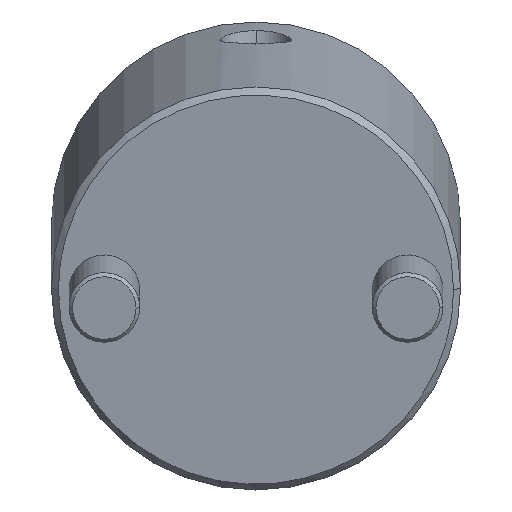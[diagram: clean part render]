
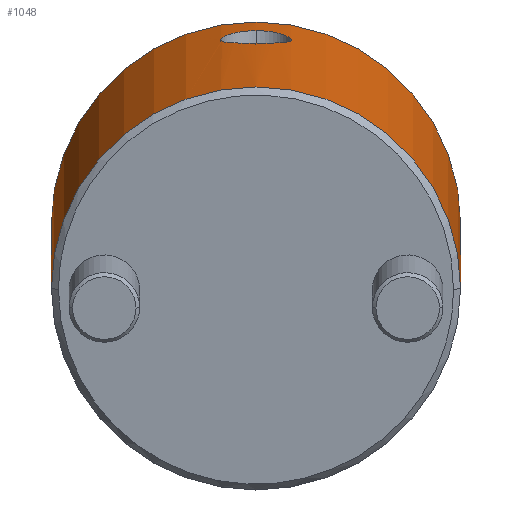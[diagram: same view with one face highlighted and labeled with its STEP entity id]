
A CAD part, front view. The second image highlights one B-rep face of the part: STEP entity #1048.
In plain terms, the highlighted cylindrical face has radius 29 mm (diameter 58 mm), a partial arc.
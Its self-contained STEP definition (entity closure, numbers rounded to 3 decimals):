
#781=CARTESIAN_POINT('Vertex',(0.,29.,1.)) ;
#784=CARTESIAN_POINT('Axis2P3D Location',(0.,0.,1.)) ;
#788=CARTESIAN_POINT('Vertex',(0.,-29.,1.)) ;
#940=CARTESIAN_POINT('Axis2P3D Location',(0.,0.,-2.75)) ;
#945=CARTESIAN_POINT('Line Origine',(0.,29.,-2.75)) ;
#949=CARTESIAN_POINT('Vertex',(0.,29.,54.)) ;
#952=CARTESIAN_POINT('Axis2P3D Location',(0.,0.,54.)) ;
#956=CARTESIAN_POINT('Vertex',(0.,-29.,54.)) ;
#959=CARTESIAN_POINT('Line Origine',(0.,-29.,-2.75)) ;
#971=CARTESIAN_POINT('Control Point',(29.,0.,46.955)) ;
#972=CARTESIAN_POINT('Control Point',(29.,0.427,46.955)) ;
#973=CARTESIAN_POINT('Control Point',(28.992,0.85,46.909)) ;
#974=CARTESIAN_POINT('Control Point',(28.977,1.272,46.813)) ;
#975=CARTESIAN_POINT('Control Point',(28.943,1.883,46.602)) ;
#976=CARTESIAN_POINT('Control Point',(28.897,2.455,46.291)) ;
#977=CARTESIAN_POINT('Control Point',(28.88,2.642,46.176)) ;
#978=CARTESIAN_POINT('Control Point',(28.845,3.003,45.926)) ;
#979=CARTESIAN_POINT('Control Point',(28.808,3.336,45.636)) ;
#980=CARTESIAN_POINT('Control Point',(28.789,3.495,45.482)) ;
#981=CARTESIAN_POINT('Control Point',(28.732,3.952,44.989)) ;
#982=CARTESIAN_POINT('Control Point',(28.677,4.325,44.429)) ;
#983=CARTESIAN_POINT('Control Point',(28.645,4.532,44.028)) ;
#984=CARTESIAN_POINT('Control Point',(28.604,4.777,43.404)) ;
#985=CARTESIAN_POINT('Control Point',(28.58,4.919,42.751)) ;
#986=CARTESIAN_POINT('Control Point',(28.573,4.955,42.53)) ;
#987=CARTESIAN_POINT('Control Point',(28.563,5.016,41.981)) ;
#988=CARTESIAN_POINT('Control Point',(28.565,5.003,41.43)) ;
#989=CARTESIAN_POINT('Control Point',(28.571,4.968,41.099)) ;
#990=CARTESIAN_POINT('Control Point',(28.596,4.826,40.344)) ;
#991=CARTESIAN_POINT('Control Point',(28.642,4.545,39.632)) ;
#992=CARTESIAN_POINT('Control Point',(28.675,4.341,39.243)) ;
#993=CARTESIAN_POINT('Control Point',(28.729,3.974,38.702)) ;
#994=CARTESIAN_POINT('Control Point',(28.786,3.524,38.229)) ;
#995=CARTESIAN_POINT('Control Point',(28.805,3.366,38.08)) ;
#996=CARTESIAN_POINT('Control Point',(28.842,3.033,37.799)) ;
#997=CARTESIAN_POINT('Control Point',(28.878,2.671,37.556)) ;
#998=CARTESIAN_POINT('Control Point',(28.895,2.482,37.444)) ;
#999=CARTESIAN_POINT('Control Point',(28.941,1.907,37.143)) ;
#1000=CARTESIAN_POINT('Control Point',(28.976,1.287,36.939)) ;
#1001=CARTESIAN_POINT('Control Point',(28.992,0.861,36.847)) ;
#1002=CARTESIAN_POINT('Control Point',(29.,0.432,36.801)) ;
#1003=CARTESIAN_POINT('Control Point',(29.,0.,36.801)) ;
#1004=CARTESIAN_POINT('Vertex',(29.,0.,46.955)) ;
#1006=CARTESIAN_POINT('Vertex',(29.,0.,36.801)) ;
#1010=CARTESIAN_POINT('Control Point',(29.,0.,36.801)) ;
#1011=CARTESIAN_POINT('Control Point',(29.,-0.219,36.801)) ;
#1012=CARTESIAN_POINT('Control Point',(28.998,-0.438,36.813)) ;
#1013=CARTESIAN_POINT('Control Point',(28.994,-0.655,36.836)) ;
#1014=CARTESIAN_POINT('Control Point',(28.982,-1.087,36.907)) ;
#1015=CARTESIAN_POINT('Control Point',(28.962,-1.51,37.024)) ;
#1016=CARTESIAN_POINT('Control Point',(28.95,-1.717,37.093)) ;
#1017=CARTESIAN_POINT('Control Point',(28.924,-2.123,37.255)) ;
#1018=CARTESIAN_POINT('Control Point',(28.892,-2.509,37.459)) ;
#1019=CARTESIAN_POINT('Control Point',(28.875,-2.697,37.573)) ;
#1020=CARTESIAN_POINT('Control Point',(28.822,-3.237,37.94)) ;
#1021=CARTESIAN_POINT('Control Point',(28.764,-3.711,38.391)) ;
#1022=CARTESIAN_POINT('Control Point',(28.725,-3.994,38.727)) ;
#1023=CARTESIAN_POINT('Control Point',(28.672,-4.357,39.271)) ;
#1024=CARTESIAN_POINT('Control Point',(28.629,-4.626,39.868)) ;
#1025=CARTESIAN_POINT('Control Point',(28.616,-4.705,40.071)) ;
#1026=CARTESIAN_POINT('Control Point',(28.593,-4.84,40.485)) ;
#1027=CARTESIAN_POINT('Control Point',(28.578,-4.93,40.914)) ;
#1028=CARTESIAN_POINT('Control Point',(28.572,-4.963,41.133)) ;
#1029=CARTESIAN_POINT('Control Point',(28.561,-5.029,41.793)) ;
#1030=CARTESIAN_POINT('Control Point',(28.568,-4.987,42.456)) ;
#1031=CARTESIAN_POINT('Control Point',(28.581,-4.912,42.898)) ;
#1032=CARTESIAN_POINT('Control Point',(28.623,-4.67,43.756)) ;
#1033=CARTESIAN_POINT('Control Point',(28.688,-4.251,44.551)) ;
#1034=CARTESIAN_POINT('Control Point',(28.725,-4.001,44.922)) ;
#1035=CARTESIAN_POINT('Control Point',(28.802,-3.424,45.61)) ;
#1036=CARTESIAN_POINT('Control Point',(28.875,-2.721,46.15)) ;
#1037=CARTESIAN_POINT('Control Point',(28.909,-2.344,46.379)) ;
#1038=CARTESIAN_POINT('Control Point',(28.958,-1.663,46.697)) ;
#1039=CARTESIAN_POINT('Control Point',(28.987,-0.938,46.878)) ;
#1040=CARTESIAN_POINT('Control Point',(28.996,-0.626,46.93)) ;
#1041=CARTESIAN_POINT('Control Point',(29.,-0.314,46.955)) ;
#1042=CARTESIAN_POINT('Control Point',(29.,0.,46.955)) ;
#785=DIRECTION('Axis2P3D Direction',(0.,0.,1.)) ;
#941=DIRECTION('Axis2P3D Direction',(0.,-0.,1.)) ;
#942=DIRECTION('Axis2P3D XDirection',(0.,-1.,0.)) ;
#946=DIRECTION('Vector Direction',(0.,0.,1.)) ;
#953=DIRECTION('Axis2P3D Direction',(0.,-0.,1.)) ;
#960=DIRECTION('Vector Direction',(0.,0.,1.)) ;
#786=AXIS2_PLACEMENT_3D('Circle Axis2P3D',#784,#785,$) ;
#943=AXIS2_PLACEMENT_3D('Cylinder Axis2P3D',#940,#941,#942) ;
#954=AXIS2_PLACEMENT_3D('Circle Axis2P3D',#952,#953,$) ;
#965=ORIENTED_EDGE('',*,*,#951,.F.) ;
#966=ORIENTED_EDGE('',*,*,#958,.T.) ;
#967=ORIENTED_EDGE('',*,*,#963,.T.) ;
#968=ORIENTED_EDGE('',*,*,#790,.F.) ;
#1045=ORIENTED_EDGE('',*,*,#1008,.T.) ;
#1046=ORIENTED_EDGE('',*,*,#1043,.T.) ;
#1047=FACE_BOUND('',#1044,.T.) ;
#947=VECTOR('Line Direction',#946,1.) ;
#961=VECTOR('Line Direction',#960,1.) ;
#1048=ADVANCED_FACE('MANIFOLD_SOLID_BREP #1148',(#969,#1047),#944,.T.) ;
#970=B_SPLINE_CURVE_WITH_KNOTS('',5,(#971,#972,#973,#974,#975,#976,#977,#978,#979,#980,#981,#982,#983,#984,#985,#986,#987,#988,#989,#990,#991,#992,#993,#994,#995,#996,#997,#998,#999,#1000,#1001,#1002,#1003),.UNSPECIFIED.,.F.,.U.,(6,3,3,3,3,3,3,3,3,3,6),(0.,3.07,4.614,6.168,9.302,10.865,13.188,16.279,17.83,19.379,22.437),.UNSPECIFIED.) ;
#1009=B_SPLINE_CURVE_WITH_KNOTS('',5,(#1010,#1011,#1012,#1013,#1014,#1015,#1016,#1017,#1018,#1019,#1020,#1021,#1022,#1023,#1024,#1025,#1026,#1027,#1028,#1029,#1030,#1031,#1032,#1033,#1034,#1035,#1036,#1037,#1038,#1039,#1040,#1041,#1042),.UNSPECIFIED.,.F.,.U.,(6,3,3,3,3,3,3,3,3,3,6),(0.,1.553,3.104,4.653,7.749,9.295,10.843,13.969,17.094,20.18,22.436),.UNSPECIFIED.) ;
#787=CIRCLE('generated circle',#786,29.) ;
#955=CIRCLE('generated circle',#954,29.) ;
#944=CYLINDRICAL_SURFACE('generated cylinder',#943,29.) ;
#790=EDGE_CURVE('',#782,#789,#787,.F.) ;
#951=EDGE_CURVE('',#950,#782,#948,.F.) ;
#958=EDGE_CURVE('',#950,#957,#955,.F.) ;
#963=EDGE_CURVE('',#957,#789,#962,.F.) ;
#1008=EDGE_CURVE('',#1005,#1007,#970,.T.) ;
#1043=EDGE_CURVE('',#1007,#1005,#1009,.T.) ;
#964=EDGE_LOOP('',(#965,#966,#967,#968)) ;
#1044=EDGE_LOOP('',(#1045,#1046)) ;
#969=FACE_OUTER_BOUND('',#964,.T.) ;
#948=LINE('Line',#945,#947) ;
#962=LINE('Line',#959,#961) ;
#782=VERTEX_POINT('',#781) ;
#789=VERTEX_POINT('',#788) ;
#950=VERTEX_POINT('',#949) ;
#957=VERTEX_POINT('',#956) ;
#1005=VERTEX_POINT('',#1004) ;
#1007=VERTEX_POINT('',#1006) ;
